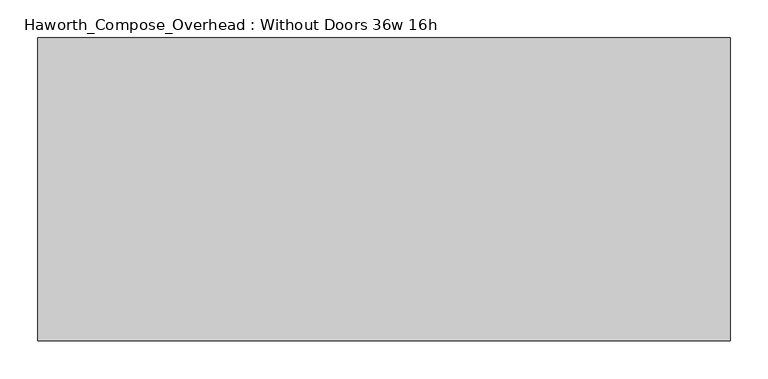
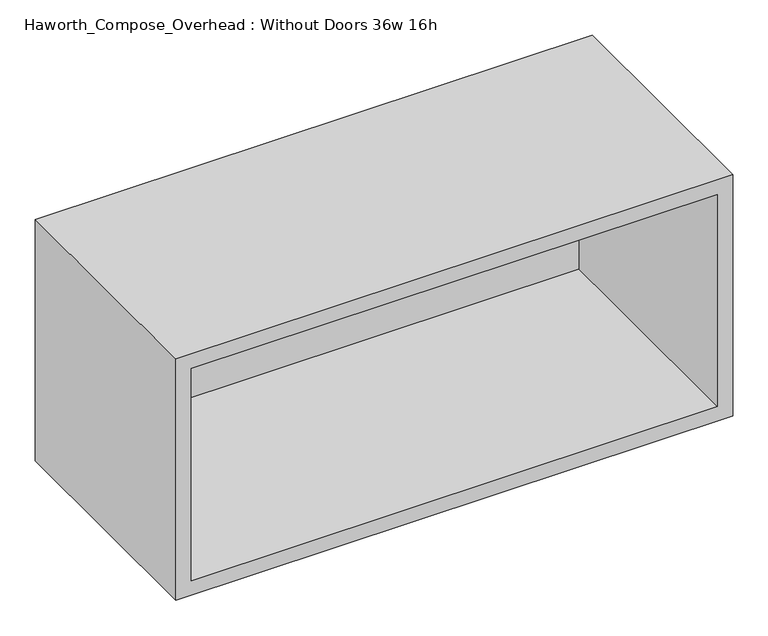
"""IFC4 building model written with IfcOpenShell, lengths in millimetres: furniture geometry, Haworth_Compose_Overhead : Without Doors 36w 16h."""

from ifc_helpers import new_model, si_unit, frame, origin, place, context, project, spatial, polyline, outline, extrude, source, transform, mapped, element, save


def haworth_compose_overhead_without_doors_36w_16h_33f18c77(model_context):
    return source(origin(), model_context, "Body", "SweptSolid", [
        extrude(outline(polyline([(596.9, -6.35), (-266.7, -6.35), (-266.7, 0.0), (596.9, 0.0), (596.9, -6.35)])), frame((0.0, 0.0, 1295.4), z_axis=(0.0, 0.0, 1.0), x_axis=(1.0, 0.0, 0.0)), (0.0, 0.0, 1.0), 368.3),
        extrude(outline(polyline([(1270.0, 622.3), (1689.1, 622.3), (1689.1, -292.1), (1270.0, -292.1), (1270.0, 622.3)]), holes=[polyline([(1663.7, 596.9), (1295.4, 596.9), (1295.4, -266.7), (1663.7, -266.7), (1663.7, 596.9)])]), frame((0.0, -400.05, 0.0), z_axis=(0.0, 1.0, 0.0), x_axis=(0.0, 0.0, 1.0)), (0.0, 0.0, 1.0), 400.05),
    ])


if __name__ == "__main__":
    model = new_model("IFC4")
    model_context = context("Model", 3, world=origin())
    ifc_project = project(units=[si_unit("LENGTHUNIT", "METRE", prefix="MILLI")], contexts=[model_context])
    site = spatial("IfcSite", under=ifc_project)
    building = spatial("IfcBuilding", under=site)
    placement = place(None, origin())
    haworth_compose_overhead_without_doors_36w_16h_shape = haworth_compose_overhead_without_doors_36w_16h_33f18c77(model_context)
    element("IfcFurniture", 1, ObjectType="Haworth_Compose_Overhead : Without Doors 36w 16h", at=placement, inside=building, context=model_context, shape_type="MappedRepresentation", body=[
        mapped(haworth_compose_overhead_without_doors_36w_16h_shape, transform((0.0, 0.0, 0.0), x_axis=(1.0, 0.0, 0.0), y_axis=(0.0, 1.0, 0.0), z_axis=(0.0, 0.0, 1.0))),
    ])
    save(model, "model.ifc")
